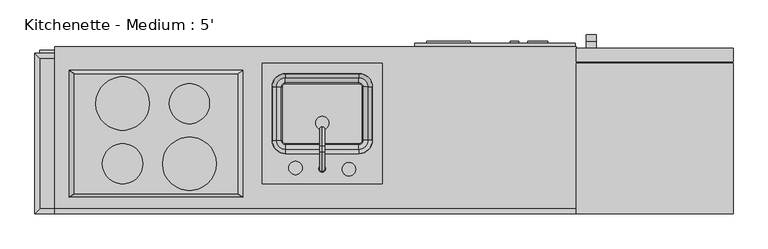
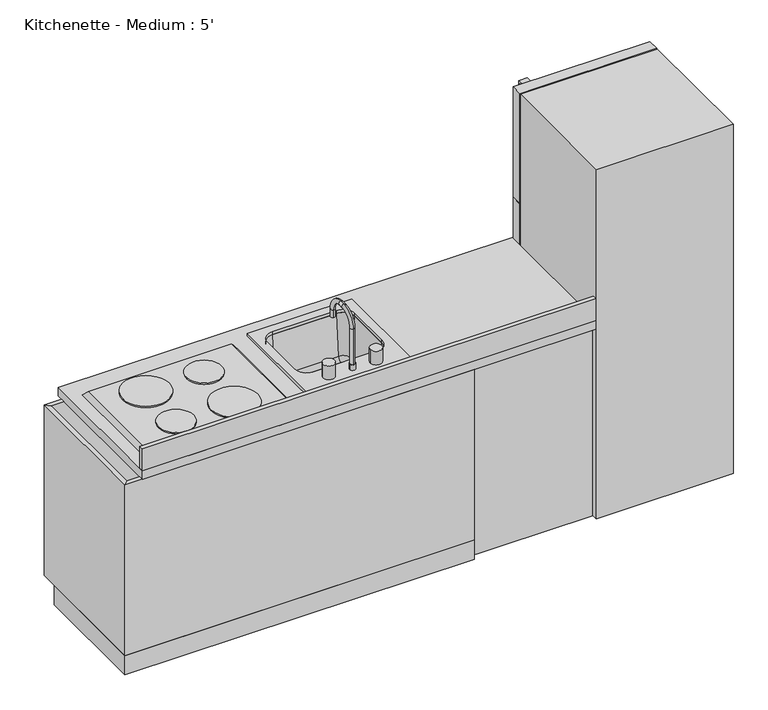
"""IFC4 building model written with IfcOpenShell, lengths in millimetres: proxy geometry, Kitchenette - Medium : 5'."""

from ifc_helpers import new_model, si_unit, point, frame, frame_2d, origin, origin_with_axes, place, context, project, spatial, polyline, circle_curve, ellipse_curve, trimmed, segment, composite_curve, outline, extrude, faceted_brep, source, transform, mapped, element, save
from ifc_brep_helpers import plane_surface, cylinder_surface, revolved_surface, advanced_brep


def kitchenette_medium_5_952fb32b(model_context):
    return source(origin(), model_context, "Body", "SolidModel", [
        extrude(outline(polyline([(911.8307496, 655.8359375), (911.8307496, 647.7), (746.7307496, 647.7), (746.7307496, 655.8359375), (911.8307496, 655.8359375)])), frame((0.0, 0.0, 780.0846419), z_axis=(0.0, 0.0, 1.0), x_axis=(1.0, 0.0, 0.0)), (0.0, 0.0, 1.0), 50.8),
        extrude(outline(composite_curve([segment(trimmed(circle_curve(frame_2d((780.0846419, 1168.9176561)), 38.1), [point((780.0846419, 1130.8176561))], [point((780.0846419, 1207.0176561))], False, "CARTESIAN"), True, "CONTINUOUS"), segment(trimmed(circle_curve(frame_2d((780.0846419, 1168.9176561)), 38.1), [point((780.0846419, 1207.0176561))], [point((780.0846419, 1130.8176561))], False, "CARTESIAN"), True, "CONTINUOUS")], self_intersect=False)), frame((0.0, 647.7, 0.0), z_axis=(0.0, 1.0, 0.0), x_axis=(0.0, 0.0, 1.0)), (0.0, 0.0, 1.0), 8.1359375),
        extrude(outline(composite_curve([segment(trimmed(circle_curve(frame_2d((780.0846419, 1079.3882607)), 15.875), [point((780.0846419, 1063.5132607))], [point((780.0846419, 1095.2632607))], False, "CARTESIAN"), True, "CONTINUOUS"), segment(trimmed(circle_curve(frame_2d((780.0846419, 1079.3882607)), 15.875), [point((780.0846419, 1095.2632607))], [point((780.0846419, 1063.5132607))], False, "CARTESIAN"), True, "CONTINUOUS")], self_intersect=False)), frame((0.0, 647.7, 0.0), z_axis=(0.0, 1.0, 0.0), x_axis=(0.0, 0.0, 1.0)), (0.0, 0.0, 1.0), 8.1359375),
        extrude(outline(polyline([(25.4, 0.0), (25.4, 863.6), (609.6, 863.6), (609.6, 101.6), (546.1, 101.6), (546.1, 0.0), (25.4, 0.0)])), frame((701.7104113, 0.0, 0.0), z_axis=(1.0, 0.0, 0.0), x_axis=(0.0, 1.0, 0.0)), (0.0, 0.0, 1.0), 609.6),
        extrude(outline(polyline([(1311.3104113, 635.0), (701.7104113, 635.0), (701.7104113, 647.7), (1311.3104113, 647.7), (1311.3104113, 635.0)])), frame((0.0, 0.0, 711.2), z_axis=(0.0, 0.0, 1.0), x_axis=(1.0, 0.0, 0.0)), (0.0, 0.0, 1.0), 152.4),
        extrude(outline(polyline([(1311.3104113, 635.0), (1311.3104113, 619.125), (701.7104113, 619.125), (701.7104113, 635.0), (1311.3104113, 635.0)])), frame((0.0, 0.0, 101.6), z_axis=(0.0, 0.0, 1.0), x_axis=(1.0, 0.0, 0.0)), (0.0, 0.0, 1.0), 762.0),
        extrude(outline(polyline([(1911.0377049, 0.0), (1314.1377049, 0.0), (1314.1377049, 571.5), (1911.0377049, 571.5), (1911.0377049, 0.0)])), origin_with_axes(), (0.0, 0.0, 1.0), 1612.9),
        extrude(outline(polyline([(1911.0377049, 577.85), (1314.1377049, 577.85), (1314.1377049, 628.65), (1911.0377049, 628.65), (1911.0377049, 577.85)])), frame((0.0, 0.0, 1106.4875), z_axis=(0.0, 0.0, 1.0), x_axis=(1.0, 0.0, 0.0)), (0.0, 0.0, 1.0), 506.4125),
        extrude(outline(polyline([(1911.0377049, 577.85), (1314.1377049, 577.85), (1314.1377049, 628.65), (1911.0377049, 628.65), (1911.0377049, 577.85)])), frame((0.0, 0.0, 76.2), z_axis=(0.0, 0.0, 1.0), x_axis=(1.0, 0.0, 0.0)), (0.0, 0.0, 1.0), 1027.1125),
        extrude(outline(polyline([(1911.0377049, 577.85), (1314.1377049, 577.85), (1314.1377049, 603.25), (1911.0377049, 603.25), (1911.0377049, 577.85)])), frame((0.0, 0.0, 9.3816357), z_axis=(0.0, 0.0, 1.0), x_axis=(1.0, 0.0, 0.0)), (0.0, 0.0, 1.0), 63.5),
        extrude(outline(polyline([(653.4883845, 1612.9), (680.028339, 1106.4875), (629.427057, 1106.4875), (629.427057, 1112.8375), (674.1496921, 1112.8375), (648.2753164, 1606.55), (629.427057, 1606.55), (629.427057, 1612.9), (653.4883845, 1612.9)])), frame((1352.2377049, 0.0, 0.0), z_axis=(1.0, 0.0, 0.0), x_axis=(0.0, 1.0, 0.0)), (0.0, 0.0, 1.0), 38.4332978),
        extrude(outline(polyline([(628.65, 1096.9625), (628.65, 1103.3125), (679.45, 1103.3125), (679.45, 900.1125), (651.5439227, 501.0370017), (628.65, 501.0370017), (628.65, 507.3715334), (645.6213702, 507.3715334), (673.1, 900.3342469), (673.1, 1096.9625), (628.65, 1096.9625)])), frame((1352.2377049, 0.0, 0.0), z_axis=(1.0, 0.0, 0.0), x_axis=(0.0, 1.0, 0.0)), (0.0, 0.0, 1.0), 38.4332978),
        extrude(outline(composite_curve([segment(trimmed(circle_curve(frame_2d((-409.8872951, 419.1)), 101.6), [point((-308.2872951, 419.1))], [point((-511.4872951, 419.1))], False, "CARTESIAN"), True, "CONTINUOUS"), segment(trimmed(circle_curve(frame_2d((-409.8872951, 419.1)), 101.6), [point((-511.4872951, 419.1))], [point((-308.2872951, 419.1))], False, "CARTESIAN"), True, "CONTINUOUS")], self_intersect=False)), frame((0.0, 0.0, 933.45), z_axis=(0.0, 0.0, 1.0), x_axis=(1.0, 0.0, 0.0)), (0.0, 0.0, 1.0), 6.35),
        faceted_brep([(28.2627049, 76.2, 933.45), (28.2627049, 533.4, 933.45), (-594.0372951, 533.4, 933.45), (-594.0372951, 76.2, 933.45), (47.3127049, 63.5, 914.4), (-613.0872951, 63.5, 914.4), (-613.0872951, 546.1, 914.4), (47.3127049, 546.1, 914.4)], [[[0, 1, 2, 3]], [[4, 5, 6, 7]], [[4, 0, 3, 5]], [[5, 3, 2, 6]], [[6, 2, 1, 7]], [[7, 1, 0, 4]]]),
        extrude(outline(composite_curve([segment(trimmed(circle_curve(frame_2d((-409.8872951, 190.5)), 76.5869489), [point((-333.3003462, 190.5))], [point((-486.474244, 190.5))], False, "CARTESIAN"), True, "CONTINUOUS"), segment(trimmed(circle_curve(frame_2d((-409.8872951, 190.5)), 76.5869489), [point((-486.474244, 190.5))], [point((-333.3003462, 190.5))], False, "CARTESIAN"), True, "CONTINUOUS")], self_intersect=False)), frame((0.0, 0.0, 933.45), z_axis=(0.0, 0.0, 1.0), x_axis=(1.0, 0.0, 0.0)), (0.0, 0.0, 1.0), 6.35),
        extrude(outline(composite_curve([segment(trimmed(circle_curve(frame_2d((-155.8872951, 190.5)), 101.6), [point((-54.2872951, 190.5))], [point((-257.4872951, 190.5))], False, "CARTESIAN"), True, "CONTINUOUS"), segment(trimmed(circle_curve(frame_2d((-155.8872951, 190.5)), 101.6), [point((-257.4872951, 190.5))], [point((-54.2872951, 190.5))], False, "CARTESIAN"), True, "CONTINUOUS")], self_intersect=False)), frame((0.0, 0.0, 933.45), z_axis=(0.0, 0.0, 1.0), x_axis=(1.0, 0.0, 0.0)), (0.0, 0.0, 1.0), 6.35),
        extrude(outline(composite_curve([segment(trimmed(circle_curve(frame_2d((-155.8872951, 419.1)), 76.2), [point((-79.6872951, 419.1))], [point((-232.0872951, 419.1))], False, "CARTESIAN"), True, "CONTINUOUS"), segment(trimmed(circle_curve(frame_2d((-155.8872951, 419.1)), 76.2), [point((-232.0872951, 419.1))], [point((-79.6872951, 419.1))], False, "CARTESIAN"), True, "CONTINUOUS")], self_intersect=False)), frame((0.0, 0.0, 933.45), z_axis=(0.0, 0.0, 1.0), x_axis=(1.0, 0.0, 0.0)), (0.0, 0.0, 1.0), 6.35),
        extrude(outline(polyline([(577.5377049, 114.3), (120.3377049, 114.3), (120.3377049, 571.5), (577.5377049, 571.5), (577.5377049, 114.3)]), holes=[composite_curve([segment(trimmed(circle_curve(frame_2d((488.6377049, 279.4)), 50.8), [point((488.6377049, 228.6))], [point((539.4377049, 279.4))], True, "CARTESIAN"), True, "CONTINUOUS"), segment(polyline([(539.4377049, 279.4), (539.4377049, 482.6)]), True, "CONTINUOUS"), segment(trimmed(circle_curve(frame_2d((488.6377049, 482.6)), 50.8), [point((539.4377049, 482.6))], [point((488.6377049, 533.4))], True, "CARTESIAN"), True, "CONTINUOUS"), segment(polyline([(488.6377049, 533.4), (209.2377049, 533.4)]), True, "CONTINUOUS"), segment(trimmed(circle_curve(frame_2d((209.2377049, 482.6)), 50.8), [point((209.2377049, 533.4))], [point((158.4377049, 482.6))], True, "CARTESIAN"), True, "CONTINUOUS"), segment(polyline([(158.4377049, 482.6), (158.4377049, 279.4)]), True, "CONTINUOUS"), segment(trimmed(circle_curve(frame_2d((209.2377049, 279.4)), 50.8), [point((158.4377049, 279.4))], [point((209.2377049, 228.6))], True, "CARTESIAN"), True, "CONTINUOUS"), segment(polyline([(209.2377049, 228.6), (488.6377049, 228.6)]), True, "CONTINUOUS")], self_intersect=False)]), frame((0.0, 0.0, 914.4), z_axis=(0.0, 0.0, 1.0), x_axis=(1.0, 0.0, 0.0)), (0.0, 0.0, 1.0), 12.7),
        advanced_brep(
        [(545.7877049, 279.4, 698.5), (545.7877049, 279.4, 914.4), (488.6377049, 222.25, 914.4), (488.6377049, 222.25, 698.5), (501.3377049, 279.4, 698.5), (488.6377049, 266.7, 698.5), (501.3377049, 279.4, 708.025), (488.6377049, 266.7, 708.025), (503.9261231, 279.4, 708.025), (488.6377049, 264.1115818, 708.025), (522.9036321, 279.4, 725.4146831), (488.6377049, 245.1340728, 725.4146831), (539.4377049, 279.4, 914.4), (488.6377049, 228.6, 914.4), (545.7877049, 482.6, 698.5), (545.7877049, 482.6, 914.4), (501.3377049, 482.6, 698.5), (501.3377049, 482.6, 708.025), (503.9261231, 482.6, 708.025), (522.9036321, 482.6, 725.4146831), (539.4377049, 482.6, 914.4), (488.6377049, 539.75, 698.5), (488.6377049, 539.75, 914.4), (488.6377049, 495.3, 698.5), (488.6377049, 495.3, 708.025), (488.6377049, 497.8884182, 708.025), (488.6377049, 516.8659272, 725.4146831), (488.6377049, 533.4, 914.4), (209.2377049, 539.75, 698.5), (209.2377049, 539.75, 914.4), (209.2377049, 495.3, 698.5), (209.2377049, 495.3, 708.025), (209.2377049, 497.8884182, 708.025), (209.2377049, 516.8659272, 725.4146831), (209.2377049, 533.4, 914.4), (152.0877049, 482.6, 698.5), (152.0877049, 482.6, 914.4), (196.5377049, 482.6, 698.5), (196.5377049, 482.6, 708.025), (193.9492867, 482.6, 708.025), (174.9717777, 482.6, 725.4146831), (158.4377049, 482.6, 914.4), (152.0877049, 279.4, 698.5), (152.0877049, 279.4, 914.4), (196.5377049, 279.4, 698.5), (196.5377049, 279.4, 708.025), (193.9492867, 279.4, 708.025), (174.9717777, 279.4, 725.4146831), (158.4377049, 279.4, 914.4), (209.2377049, 222.25, 698.5), (209.2377049, 222.25, 914.4), (209.2377049, 266.7, 698.5), (209.2377049, 266.7, 708.025), (209.2377049, 264.1115818, 708.025), (209.2377049, 245.1340728, 725.4146831), (209.2377049, 228.6, 914.4)],
        [
            (0, 1),
            (1, 2, circle_curve(frame((488.6377049, 279.4, 914.4), z_axis=(0.0, 0.0, -1.0), x_axis=(0.0, -1.0, 0.0)), 57.15)),
            (2, 3),
            (3, 0, circle_curve(frame((488.6377049, 279.4, 698.5), z_axis=(0.0, 0.0, 1.0), x_axis=(0.0, -1.0, 0.0)), 57.15)),
            (4, 0),
            (3, 5),
            (5, 4, circle_curve(frame((488.6377049, 279.4, 698.5), z_axis=(0.0, 0.0, 1.0), x_axis=(0.0, -1.0, 0.0)), 12.7)),
            (6, 4),
            (5, 7),
            (7, 6, circle_curve(frame((488.6377049, 279.4, 708.025), z_axis=(0.0, 0.0, 1.0), x_axis=(0.0, -1.0, 0.0)), 12.7)),
            (8, 6),
            (7, 9),
            (9, 8, circle_curve(frame((488.6377049, 279.4, 708.025), z_axis=(0.0, 0.0, 1.0), x_axis=(0.0, -1.0, 0.0)), 15.2884182)),
            (10, 8, circle_curve(frame((503.9261231, 279.4, 727.075), z_axis=(0.0, 1.0, 0.0), x_axis=(1.0, 0.0, 0.0)), 19.05)),
            (9, 11, circle_curve(frame((488.6377049, 264.1115818, 727.075), z_axis=(-1.0, 0.0, 0.0), x_axis=(0.0, -1.0, 0.0)), 19.05)),
            (11, 10, circle_curve(frame((488.6377049, 279.4, 725.4146831), z_axis=(0.0, 0.0, 1.0), x_axis=(0.0, -1.0, 0.0)), 34.2659272)),
            (12, 10),
            (11, 13),
            (13, 12, circle_curve(frame((488.6377049, 279.4, 914.4), z_axis=(0.0, 0.0, 1.0), x_axis=(0.0, -1.0, 0.0)), 50.8)),
            (1, 12),
            (13, 2),
            (0, 14),
            (14, 15),
            (15, 1),
            (4, 16),
            (16, 14),
            (6, 17),
            (17, 16),
            (8, 18),
            (18, 17),
            (10, 19),
            (19, 18, circle_curve(frame((503.9261231, 482.6, 727.075), z_axis=(0.0, 1.0, 0.0), x_axis=(1.0, 0.0, 0.0)), 19.05)),
            (12, 20),
            (20, 19),
            (15, 20),
            (21, 22),
            (22, 15, circle_curve(frame((488.6377049, 482.6, 914.4), z_axis=(0.0, 0.0, -1.0), x_axis=(1.0, 0.0, 0.0)), 57.15)),
            (14, 21, circle_curve(frame((488.6377049, 482.6, 698.5), z_axis=(0.0, 0.0, 1.0), x_axis=(1.0, 0.0, 0.0)), 57.15)),
            (23, 21),
            (16, 23, circle_curve(frame((488.6377049, 482.6, 698.5), z_axis=(0.0, 0.0, 1.0), x_axis=(1.0, 0.0, 0.0)), 12.7)),
            (24, 23),
            (17, 24, circle_curve(frame((488.6377049, 482.6, 708.025), z_axis=(0.0, 0.0, 1.0), x_axis=(1.0, 0.0, 0.0)), 12.7)),
            (25, 24),
            (18, 25, circle_curve(frame((488.6377049, 482.6, 708.025), z_axis=(0.0, 0.0, 1.0), x_axis=(1.0, 0.0, 0.0)), 15.2884182)),
            (26, 25, circle_curve(frame((488.6377049, 497.8884182, 727.075), z_axis=(-1.0, 0.0, 0.0), x_axis=(0.0, 1.0, 0.0)), 19.05)),
            (19, 26, circle_curve(frame((488.6377049, 482.6, 725.4146831), z_axis=(0.0, 0.0, 1.0), x_axis=(1.0, 0.0, 0.0)), 34.2659272)),
            (27, 26),
            (20, 27, circle_curve(frame((488.6377049, 482.6, 914.4), z_axis=(0.0, 0.0, 1.0), x_axis=(1.0, 0.0, 0.0)), 50.8)),
            (22, 27),
            (21, 28),
            (28, 29),
            (29, 22),
            (23, 30),
            (30, 28),
            (24, 31),
            (31, 30),
            (25, 32),
            (32, 31),
            (26, 33),
            (33, 32, circle_curve(frame((209.2377049, 497.8884182, 727.075), z_axis=(-1.0, 0.0, 0.0), x_axis=(0.0, 1.0, 0.0)), 19.05)),
            (27, 34),
            (34, 33),
            (29, 34),
            (35, 36),
            (36, 29, circle_curve(frame((209.2377049, 482.6, 914.4), z_axis=(0.0, 0.0, -1.0), x_axis=(0.0, 1.0, 0.0)), 57.15)),
            (28, 35, circle_curve(frame((209.2377049, 482.6, 698.5), z_axis=(0.0, 0.0, 1.0), x_axis=(0.0, 1.0, 0.0)), 57.15)),
            (37, 35),
            (30, 37, circle_curve(frame((209.2377049, 482.6, 698.5), z_axis=(0.0, 0.0, 1.0), x_axis=(0.0, 1.0, 0.0)), 12.7)),
            (38, 37),
            (31, 38, circle_curve(frame((209.2377049, 482.6, 708.025), z_axis=(0.0, 0.0, 1.0), x_axis=(0.0, 1.0, 0.0)), 12.7)),
            (39, 38),
            (32, 39, circle_curve(frame((209.2377049, 482.6, 708.025), z_axis=(0.0, 0.0, 1.0), x_axis=(0.0, 1.0, 0.0)), 15.2884182)),
            (40, 39, circle_curve(frame((193.9492867, 482.6, 727.075), z_axis=(0.0, -1.0, 0.0), x_axis=(-1.0, 0.0, 0.0)), 19.05)),
            (33, 40, circle_curve(frame((209.2377049, 482.6, 725.4146831), z_axis=(0.0, 0.0, 1.0), x_axis=(0.0, 1.0, 0.0)), 34.2659272)),
            (41, 40),
            (34, 41, circle_curve(frame((209.2377049, 482.6, 914.4), z_axis=(0.0, 0.0, 1.0), x_axis=(0.0, 1.0, 0.0)), 50.8)),
            (36, 41),
            (35, 42),
            (42, 43),
            (43, 36),
            (37, 44),
            (44, 42),
            (38, 45),
            (45, 44),
            (39, 46),
            (46, 45),
            (40, 47),
            (47, 46, circle_curve(frame((193.9492867, 279.4, 727.075), z_axis=(0.0, -1.0, 0.0), x_axis=(-1.0, 0.0, 0.0)), 19.05)),
            (41, 48),
            (48, 47),
            (43, 48),
            (49, 50),
            (50, 43, circle_curve(frame((209.2377049, 279.4, 914.4), z_axis=(0.0, 0.0, -1.0), x_axis=(-1.0, 0.0, 0.0)), 57.15)),
            (42, 49, circle_curve(frame((209.2377049, 279.4, 698.5), z_axis=(0.0, 0.0, 1.0), x_axis=(-1.0, 0.0, 0.0)), 57.15)),
            (51, 49),
            (44, 51, circle_curve(frame((209.2377049, 279.4, 698.5), z_axis=(0.0, 0.0, 1.0), x_axis=(-1.0, 0.0, 0.0)), 12.7)),
            (52, 51),
            (45, 52, circle_curve(frame((209.2377049, 279.4, 708.025), z_axis=(0.0, 0.0, 1.0), x_axis=(-1.0, 0.0, 0.0)), 12.7)),
            (53, 52),
            (46, 53, circle_curve(frame((209.2377049, 279.4, 708.025), z_axis=(0.0, 0.0, 1.0), x_axis=(-1.0, 0.0, 0.0)), 15.2884182)),
            (54, 53, circle_curve(frame((209.2377049, 264.1115818, 727.075), z_axis=(1.0, 0.0, 0.0), x_axis=(0.0, -1.0, 0.0)), 19.05)),
            (47, 54, circle_curve(frame((209.2377049, 279.4, 725.4146831), z_axis=(0.0, 0.0, 1.0), x_axis=(-1.0, 0.0, 0.0)), 34.2659272)),
            (55, 54),
            (48, 55, circle_curve(frame((209.2377049, 279.4, 914.4), z_axis=(0.0, 0.0, 1.0), x_axis=(-1.0, 0.0, 0.0)), 50.8)),
            (50, 55),
            (49, 3),
            (2, 50),
            (51, 5),
            (52, 7),
            (53, 9),
            (54, 11),
            (55, 13),
        ],
        [
            cylinder_surface(frame((488.6377049, 279.4, 0.0), z_axis=(0.0, 0.0, -1.0), x_axis=(0.0, -1.0, 0.0)), 57.15),
            plane_surface(frame((488.6377049, 279.4, 698.5), z_axis=(0.0, 0.0, -1.0), x_axis=(0.0, -1.0, 0.0))),
            revolved_surface(polyline([(488.6377049, 266.7, 698.5), (488.6377049, 266.7, 708.025)]), (488.6377049, 279.4, 0.0), (0.0, 0.0, -1.0)),
            plane_surface(frame((488.6377049, 279.4, 708.025), z_axis=(0.0, 0.0, 1.0), x_axis=(0.0, -1.0, 0.0))),
            revolved_surface(trimmed(ellipse_curve(frame((488.6377049, 264.1115818, 727.075), z_axis=(-1.0, 0.0, 0.0), x_axis=(0.0, -1.0, 0.0)), 19.05, 19.05), [point((488.6377049, 264.1115818, 708.025))], [point((488.6377049, 245.1340728, 725.4146831))], True, "CARTESIAN"), (488.6377049, 279.4, 0.0), (0.0, 0.0, -1.0)),
            revolved_surface(polyline([(488.6377049, 245.1340728, 725.4146831), (488.6377049, 228.6, 914.4)]), (488.6377049, 279.4, 0.0), (0.0, 0.0, -1.0)),
            plane_surface(frame((488.6377049, 279.4, 914.4), z_axis=(0.0, 0.0, 1.0), x_axis=(0.0, -1.0, 0.0))),
            plane_surface(frame((545.7877049, 279.4, 914.4), z_axis=(1.0, 0.0, 0.0), x_axis=(0.0, 1.0, 0.0))),
            plane_surface(frame((545.7877049, 279.4, 698.5), z_axis=(0.0, 0.0, -1.0), x_axis=(0.0, 1.0, 0.0))),
            plane_surface(frame((501.3377049, 279.4, 698.5), z_axis=(-1.0, 0.0, 0.0), x_axis=(0.0, 1.0, 0.0))),
            plane_surface(frame((501.3377049, 279.4, 708.025), z_axis=(0.0, 0.0, 1.0), x_axis=(0.0, 1.0, 0.0))),
            revolved_surface(polyline([(522.9761231, 482.6, 727.075), (522.9761231, 279.4, 727.075)]), (503.9261231, 279.4, 727.075), (0.0, 1.0, 0.0)),
            plane_surface(frame((522.9036321, 279.4, 725.4146831), z_axis=(-0.9961946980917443, 0.0, 0.08715574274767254), x_axis=(0.0, 1.0, 0.0))),
            plane_surface(frame((539.4377049, 279.4, 914.4), z_axis=(0.0, 0.0, 1.0), x_axis=(0.0, 1.0, 0.0))),
            cylinder_surface(frame((488.6377049, 482.6, 0.0), z_axis=(0.0, 0.0, -1.0), x_axis=(1.0, 0.0, 0.0)), 57.15),
            plane_surface(frame((488.6377049, 482.6, 698.5), z_axis=(0.0, 0.0, -1.0), x_axis=(1.0, 0.0, 0.0))),
            revolved_surface(polyline([(501.3377049, 482.6, 698.5), (501.3377049, 482.6, 708.025)]), (488.6377049, 482.6, 0.0), (0.0, 0.0, -1.0)),
            plane_surface(frame((488.6377049, 482.6, 708.025), z_axis=(0.0, 0.0, 1.0), x_axis=(1.0, 0.0, 0.0))),
            revolved_surface(trimmed(ellipse_curve(frame((503.9261231, 482.6, 727.075), z_axis=(0.0, -1.0, 0.0), x_axis=(1.0, 0.0, 0.0)), 19.05, 19.05), [point((503.9261231, 482.6, 708.025))], [point((522.9036321, 482.6, 725.4146831))], True, "CARTESIAN"), (488.6377049, 482.6, 0.0), (0.0, 0.0, -1.0)),
            revolved_surface(polyline([(522.9036321, 482.6, 725.4146831), (539.4377049, 482.6, 914.4)]), (488.6377049, 482.6, 0.0), (0.0, 0.0, -1.0)),
            plane_surface(frame((488.6377049, 482.6, 914.4), z_axis=(0.0, 0.0, 1.0), x_axis=(1.0, 0.0, 0.0))),
            plane_surface(frame((488.6377049, 539.75, 914.4), z_axis=(0.0, 1.0, 0.0), x_axis=(-1.0, 0.0, 0.0))),
            plane_surface(frame((488.6377049, 539.75, 698.5), z_axis=(0.0, 0.0, -1.0), x_axis=(-1.0, 0.0, 0.0))),
            plane_surface(frame((488.6377049, 495.3, 698.5), z_axis=(0.0, -1.0, 0.0), x_axis=(-1.0, 0.0, 0.0))),
            plane_surface(frame((488.6377049, 495.3, 708.025), z_axis=(0.0, 0.0, 1.0), x_axis=(-1.0, 0.0, 0.0))),
            revolved_surface(polyline([(209.23770490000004, 516.9384182, 727.075), (488.6377049, 516.9384182, 727.075)]), (488.6377049, 497.8884182, 727.075), (-1.0, 0.0, 0.0)),
            plane_surface(frame((488.6377049, 516.8659272, 725.4146831), z_axis=(0.0, -0.9961946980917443, 0.08715574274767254), x_axis=(-1.0, 0.0, 0.0))),
            plane_surface(frame((488.6377049, 533.4, 914.4), z_axis=(0.0, 0.0, 1.0), x_axis=(-1.0, 0.0, 0.0))),
            cylinder_surface(frame((209.2377049, 482.6, 0.0), z_axis=(0.0, 0.0, -1.0), x_axis=(0.0, 1.0, 0.0)), 57.15),
            plane_surface(frame((209.2377049, 482.6, 698.5), z_axis=(0.0, 0.0, -1.0), x_axis=(0.0, 1.0, 0.0))),
            revolved_surface(polyline([(209.2377049, 495.3, 698.5), (209.2377049, 495.3, 708.025)]), (209.2377049, 482.6, 0.0), (0.0, 0.0, -1.0)),
            plane_surface(frame((209.2377049, 482.6, 708.025), z_axis=(0.0, 0.0, 1.0), x_axis=(0.0, 1.0, 0.0))),
            revolved_surface(trimmed(ellipse_curve(frame((209.2377049, 497.8884182, 727.075), z_axis=(1.0, 0.0, 0.0), x_axis=(0.0, 1.0, 0.0)), 19.05, 19.05), [point((209.2377049, 497.8884182, 708.025))], [point((209.2377049, 516.8659272, 725.4146831))], True, "CARTESIAN"), (209.2377049, 482.6, 0.0), (0.0, 0.0, -1.0)),
            revolved_surface(polyline([(209.2377049, 516.8659272, 725.4146831), (209.2377049, 533.4, 914.4)]), (209.2377049, 482.6, 0.0), (0.0, 0.0, -1.0)),
            plane_surface(frame((209.2377049, 482.6, 914.4), z_axis=(0.0, 0.0, 1.0), x_axis=(0.0, 1.0, 0.0))),
            plane_surface(frame((152.0877049, 482.6, 914.4), z_axis=(-1.0, 0.0, 0.0), x_axis=(0.0, -1.0, 0.0))),
            plane_surface(frame((152.0877049, 482.6, 698.5), z_axis=(0.0, 0.0, -1.0), x_axis=(0.0, -1.0, 0.0))),
            plane_surface(frame((196.5377049, 482.6, 698.5), z_axis=(1.0, 0.0, 0.0), x_axis=(0.0, -1.0, 0.0))),
            plane_surface(frame((196.5377049, 482.6, 708.025), z_axis=(0.0, 0.0, 1.0), x_axis=(0.0, -1.0, 0.0))),
            revolved_surface(polyline([(174.89928669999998, 279.4, 727.075), (174.89928669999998, 482.6, 727.075)]), (193.9492867, 482.6, 727.075), (0.0, -1.0, 0.0)),
            plane_surface(frame((174.9717777, 482.6, 725.4146831), z_axis=(0.9961946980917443, 0.0, 0.08715574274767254), x_axis=(0.0, -1.0, 0.0))),
            plane_surface(frame((158.4377049, 482.6, 914.4), z_axis=(0.0, 0.0, 1.0), x_axis=(0.0, -1.0, 0.0))),
            cylinder_surface(frame((209.2377049, 279.4, 0.0), z_axis=(0.0, 0.0, -1.0), x_axis=(-1.0, 0.0, 0.0)), 57.15),
            plane_surface(frame((209.2377049, 279.4, 698.5), z_axis=(0.0, 0.0, -1.0), x_axis=(-1.0, 0.0, 0.0))),
            revolved_surface(polyline([(196.53770490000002, 279.4, 698.5), (196.53770490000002, 279.4, 708.025)]), (209.2377049, 279.4, 0.0), (0.0, 0.0, -1.0)),
            plane_surface(frame((209.2377049, 279.4, 708.025), z_axis=(0.0, 0.0, 1.0), x_axis=(-1.0, 0.0, 0.0))),
            revolved_surface(trimmed(ellipse_curve(frame((193.9492867, 279.4, 727.075), z_axis=(0.0, 1.0, 0.0), x_axis=(-1.0, 0.0, 0.0)), 19.05, 19.05), [point((193.9492867, 279.4, 708.025))], [point((174.9717777, 279.4, 725.4146831))], True, "CARTESIAN"), (209.2377049, 279.4, 0.0), (0.0, 0.0, -1.0)),
            revolved_surface(polyline([(174.9717777, 279.4, 725.4146831), (158.4377049, 279.4, 914.4)]), (209.2377049, 279.4, 0.0), (0.0, 0.0, -1.0)),
            plane_surface(frame((209.2377049, 279.4, 914.4), z_axis=(0.0, 0.0, 1.0), x_axis=(-1.0, 0.0, 0.0))),
            plane_surface(frame((209.2377049, 222.25, 914.4), z_axis=(0.0, -1.0, 0.0), x_axis=(1.0, 0.0, 0.0))),
            plane_surface(frame((209.2377049, 222.25, 698.5), z_axis=(0.0, 0.0, -1.0), x_axis=(1.0, 0.0, 0.0))),
            plane_surface(frame((209.2377049, 266.7, 698.5), z_axis=(0.0, 1.0, 0.0), x_axis=(1.0, 0.0, 0.0))),
            plane_surface(frame((209.2377049, 266.7, 708.025), z_axis=(0.0, 0.0, 1.0), x_axis=(1.0, 0.0, 0.0))),
            revolved_surface(polyline([(488.6377049, 245.0615818, 727.075), (209.2377049, 245.0615818, 727.075)]), (209.2377049, 264.1115818, 727.075), (1.0, 0.0, 0.0)),
            plane_surface(frame((209.2377049, 245.1340728, 725.4146831), z_axis=(0.0, 0.9961946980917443, 0.08715574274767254), x_axis=(1.0, 0.0, 0.0))),
            plane_surface(frame((209.2377049, 228.6, 914.4), z_axis=(0.0, 0.0, 1.0), x_axis=(1.0, 0.0, 0.0))),
        ],
        [
            (0, [[1, 2, 3, 4]]),
            (1, [[5, -4, 6, 7]]),
            (2, [[8, -7, 9, 10]]),
            (3, [[11, -10, 12, 13]]),
            (4, [[14, -13, 15, 16]]),
            (5, [[17, -16, 18, 19]]),
            (6, [[20, -19, 21, -2]]),
            (7, [[22, 23, 24, -1]]),
            (8, [[25, 26, -22, -5]]),
            (9, [[27, 28, -25, -8]]),
            (10, [[29, 30, -27, -11]]),
            (11, [[31, 32, -29, -14]]),
            (12, [[33, 34, -31, -17]]),
            (13, [[-24, 35, -33, -20]]),
            (14, [[36, 37, -23, 38]]),
            (15, [[39, -38, -26, 40]]),
            (16, [[41, -40, -28, 42]]),
            (17, [[43, -42, -30, 44]]),
            (18, [[45, -44, -32, 46]]),
            (19, [[47, -46, -34, 48]]),
            (20, [[49, -48, -35, -37]]),
            (21, [[50, 51, 52, -36]]),
            (22, [[53, 54, -50, -39]]),
            (23, [[55, 56, -53, -41]]),
            (24, [[57, 58, -55, -43]]),
            (25, [[59, 60, -57, -45]]),
            (26, [[61, 62, -59, -47]]),
            (27, [[-52, 63, -61, -49]]),
            (28, [[64, 65, -51, 66]]),
            (29, [[67, -66, -54, 68]]),
            (30, [[69, -68, -56, 70]]),
            (31, [[71, -70, -58, 72]]),
            (32, [[73, -72, -60, 74]]),
            (33, [[75, -74, -62, 76]]),
            (34, [[77, -76, -63, -65]]),
            (35, [[78, 79, 80, -64]]),
            (36, [[81, 82, -78, -67]]),
            (37, [[83, 84, -81, -69]]),
            (38, [[85, 86, -83, -71]]),
            (39, [[87, 88, -85, -73]]),
            (40, [[89, 90, -87, -75]]),
            (41, [[-80, 91, -89, -77]]),
            (42, [[92, 93, -79, 94]]),
            (43, [[95, -94, -82, 96]]),
            (44, [[97, -96, -84, 98]]),
            (45, [[99, -98, -86, 100]]),
            (46, [[101, -100, -88, 102]]),
            (47, [[103, -102, -90, 104]]),
            (48, [[105, -104, -91, -93]]),
            (49, [[106, -3, 107, -92]]),
            (50, [[108, -6, -106, -95]]),
            (51, [[109, -9, -108, -97]]),
            (52, [[110, -12, -109, -99]]),
            (53, [[111, -15, -110, -101]]),
            (54, [[112, -18, -111, -103]]),
            (55, [[-107, -21, -112, -105]]),
        ],
    ),
        extrude(outline(composite_curve([segment(polyline([(488.6377049, 266.7), (209.2377049, 266.7)]), True, "CONTINUOUS"), segment(trimmed(circle_curve(frame_2d((209.2377049, 279.4)), 12.7), [point((209.2377049, 266.7))], [point((196.5377049, 279.4))], False, "CARTESIAN"), True, "CONTINUOUS"), segment(polyline([(196.5377049, 279.4), (196.5377049, 482.6)]), True, "CONTINUOUS"), segment(trimmed(circle_curve(frame_2d((209.2377049, 482.6)), 12.7), [point((196.5377049, 482.6))], [point((209.2377049, 495.3))], False, "CARTESIAN"), True, "CONTINUOUS"), segment(polyline([(209.2377049, 495.3), (488.6377049, 495.3)]), True, "CONTINUOUS"), segment(trimmed(circle_curve(frame_2d((488.6377049, 482.6)), 12.7), [point((488.6377049, 495.3))], [point((501.3377049, 482.6))], False, "CARTESIAN"), True, "CONTINUOUS"), segment(polyline([(501.3377049, 482.6), (501.3377049, 279.4)]), True, "CONTINUOUS"), segment(trimmed(circle_curve(frame_2d((488.6377049, 279.4)), 12.7), [point((501.3377049, 279.4))], [point((488.6377049, 266.7))], False, "CARTESIAN"), True, "CONTINUOUS")], self_intersect=False), holes=[composite_curve([segment(trimmed(circle_curve(frame_2d((348.9377049, 345.2454011)), 25.4), [point((323.5377049, 345.2454011))], [point((374.3377049, 345.2454011))], True, "CARTESIAN"), True, "CONTINUOUS"), segment(trimmed(circle_curve(frame_2d((348.9377049, 345.2454011)), 25.4), [point((374.3377049, 345.2454011))], [point((323.5377049, 345.2454011))], True, "CARTESIAN"), True, "CONTINUOUS")], self_intersect=False)]), frame((0.0, 0.0, 698.5), z_axis=(0.0, 0.0, 1.0), x_axis=(1.0, 0.0, 0.0)), (0.0, 0.0, 1.0), 9.525),
        extrude(outline(composite_curve([segment(trimmed(circle_curve(frame_2d((247.3377049, 174.5287936)), 25.4), [point((221.9377049, 174.5287936))], [point((272.7377049, 174.5287936))], False, "CARTESIAN"), True, "CONTINUOUS"), segment(trimmed(circle_curve(frame_2d((247.3377049, 174.5287936)), 25.4), [point((272.7377049, 174.5287936))], [point((221.9377049, 174.5287936))], False, "CARTESIAN"), True, "CONTINUOUS")], self_intersect=False)), frame((0.0, 0.0, 927.1), z_axis=(0.0, 0.0, 1.0), x_axis=(1.0, 0.0, 0.0)), (0.0, 0.0, 1.0), 63.5),
        extrude(outline(composite_curve([segment(trimmed(circle_curve(frame_2d((450.5377049, 169.3320688)), 25.4), [point((425.1377049, 169.3320688))], [point((475.9377049, 169.3320688))], False, "CARTESIAN"), True, "CONTINUOUS"), segment(trimmed(circle_curve(frame_2d((450.5377049, 169.3320688)), 25.4), [point((475.9377049, 169.3320688))], [point((425.1377049, 169.3320688))], False, "CARTESIAN"), True, "CONTINUOUS")], self_intersect=False)), frame((0.0, 0.0, 927.1), z_axis=(0.0, 0.0, 1.0), x_axis=(1.0, 0.0, 0.0)), (0.0, 0.0, 1.0), 63.5),
        advanced_brep(
        [(348.9377049, 161.925, 927.1), (348.9377049, 180.975, 927.1), (348.9377049, 180.975, 1114.425), (348.9377049, 161.925, 1114.425), (348.9377049, 234.95, 1168.4), (348.9377049, 234.95, 1187.45), (348.9377049, 257.175, 1168.4), (348.9377049, 257.175, 1187.45), (348.9377049, 311.15, 1114.425), (348.9377049, 330.2, 1114.425), (348.9377049, 330.2, 1079.5), (348.9377049, 311.15, 1079.5)],
        [
            (0, 1, circle_curve(frame((348.9377049, 171.45, 927.1), z_axis=(0.0, 0.0, -1.0), x_axis=(0.0, 1.0, 0.0)), 9.525)),
            (1, 0, circle_curve(frame((348.9377049, 171.45, 927.1), z_axis=(0.0, 0.0, -1.0), x_axis=(0.0, 1.0, 0.0)), 9.525)),
            (1, 2),
            (2, 3, circle_curve(frame((348.9377049, 171.45, 1114.425), z_axis=(0.0, 0.0, -1.0), x_axis=(0.0, 1.0, 0.0)), 9.525)),
            (3, 0),
            (3, 2, circle_curve(frame((348.9377049, 171.45, 1114.425), z_axis=(0.0, 0.0, -1.0), x_axis=(0.0, 1.0, 0.0)), 9.525)),
            (4, 5, circle_curve(frame((348.9377049, 234.95, 1177.925), z_axis=(0.0, -1.0, 0.0), x_axis=(0.0, 0.0, -1.0)), 9.525)),
            (5, 3, circle_curve(frame((348.9377049, 234.95, 1114.425), z_axis=(1.0, 0.0, 0.0), x_axis=(0.0, -1.0, 0.0)), 73.025)),
            (2, 4, circle_curve(frame((348.9377049, 234.95, 1114.425), z_axis=(-1.0, 0.0, 0.0), x_axis=(0.0, -1.0, 0.0)), 53.975)),
            (5, 4, circle_curve(frame((348.9377049, 234.95, 1177.925), z_axis=(0.0, -1.0, 0.0), x_axis=(0.0, 0.0, -1.0)), 9.525)),
            (4, 6),
            (6, 7, circle_curve(frame((348.9377049, 257.175, 1177.925), z_axis=(0.0, -1.0, 0.0), x_axis=(0.0, 0.0, -1.0)), 9.525)),
            (7, 5),
            (7, 6, circle_curve(frame((348.9377049, 257.175, 1177.925), z_axis=(0.0, -1.0, 0.0), x_axis=(0.0, 0.0, -1.0)), 9.525)),
            (8, 9, circle_curve(frame((348.9377049, 320.675, 1114.425), z_axis=(0.0, 0.0, 1.0), x_axis=(0.0, -1.0, 0.0)), 9.525)),
            (9, 7, circle_curve(frame((348.9377049, 257.175, 1114.425), z_axis=(1.0, 0.0, 0.0), x_axis=(0.0, 0.0, 1.0)), 73.025)),
            (6, 8, circle_curve(frame((348.9377049, 257.175, 1114.425), z_axis=(-1.0, 0.0, 0.0), x_axis=(0.0, 0.0, 1.0)), 53.975)),
            (9, 8, circle_curve(frame((348.9377049, 320.675, 1114.425), z_axis=(0.0, 0.0, 1.0), x_axis=(0.0, -1.0, 0.0)), 9.525)),
            (10, 11, circle_curve(frame((348.9377049, 320.675, 1079.5), z_axis=(0.0, 0.0, -1.0), x_axis=(0.0, -1.0, 0.0)), 9.525)),
            (11, 10, circle_curve(frame((348.9377049, 320.675, 1079.5), z_axis=(0.0, 0.0, -1.0), x_axis=(0.0, -1.0, 0.0)), 9.525)),
            (8, 11),
            (10, 9),
        ],
        [
            plane_surface(frame((348.9377049, 180.975, 927.1), z_axis=(0.0, 0.0, -1.0), x_axis=(1.0, 0.0, 0.0))),
            cylinder_surface(frame((348.9377049, 171.45, 927.1), z_axis=(0.0, 0.0, -1.0), x_axis=(0.0, 1.0, 0.0)), 9.525),
            revolved_surface(trimmed(ellipse_curve(frame((348.9377049, 171.45, 1114.425), z_axis=(0.0, 0.0, 1.0), x_axis=(0.0, 1.0, 0.0)), 9.525, 9.525), [point((348.9377049, 161.925, 1114.425))], [point((348.9377049, 180.975, 1114.425))], True, "CARTESIAN"), (348.9377049, 234.95, 1114.425), (1.0, 0.0, 0.0)),
            revolved_surface(trimmed(ellipse_curve(frame((348.9377049, 171.45, 1114.425), z_axis=(0.0, 0.0, 1.0), x_axis=(0.0, 1.0, 0.0)), 9.525, 9.525), [point((348.9377049, 180.975, 1114.425))], [point((348.9377049, 161.925, 1114.425))], True, "CARTESIAN"), (348.9377049, 234.95, 1114.425), (1.0, 0.0, 0.0)),
            cylinder_surface(frame((348.9377049, 234.95, 1177.925), z_axis=(0.0, -1.0, 0.0), x_axis=(0.0, 0.0, -1.0)), 9.525),
            revolved_surface(trimmed(ellipse_curve(frame((348.9377049, 257.175, 1177.925), z_axis=(0.0, 1.0, 0.0), x_axis=(0.0, 0.0, -1.0)), 9.525, 9.525), [point((348.9377049, 257.175, 1187.45))], [point((348.9377049, 257.175, 1168.4))], True, "CARTESIAN"), (348.9377049, 257.175, 1114.425), (1.0, 0.0, 0.0)),
            revolved_surface(trimmed(ellipse_curve(frame((348.9377049, 257.175, 1177.925), z_axis=(0.0, 1.0, 0.0), x_axis=(0.0, 0.0, -1.0)), 9.525, 9.525), [point((348.9377049, 257.175, 1168.4))], [point((348.9377049, 257.175, 1187.45))], True, "CARTESIAN"), (348.9377049, 257.175, 1114.425), (1.0, 0.0, 0.0)),
            plane_surface(frame((348.9377049, 330.2, 1079.5), z_axis=(0.0, 0.0, -1.0), x_axis=(-1.0, 0.0, 0.0))),
            cylinder_surface(frame((348.9377049, 320.675, 1114.425), z_axis=(0.0, 0.0, 1.0), x_axis=(0.0, -1.0, 0.0)), 9.525),
        ],
        [
            (0, [[1, 2]]),
            (1, [[3, 4, 5, -2]]),
            (1, [[-5, 6, -3, -1]]),
            (2, [[7, 8, -4, 9]]),
            (3, [[10, -9, -6, -8]]),
            (4, [[11, 12, 13, -7]]),
            (4, [[-13, 14, -11, -10]]),
            (5, [[15, 16, -12, 17]]),
            (6, [[18, -17, -14, -16]]),
            (7, [[19, 20]]),
            (8, [[21, -19, 22, -15]]),
            (8, [[-22, -20, -21, -18]]),
        ],
    ),
        extrude(outline(composite_curve([segment(trimmed(circle_curve(frame_2d((348.9377049, 171.45)), 12.7), [point((336.2377049, 171.45))], [point((361.6377049, 171.45))], False, "CARTESIAN"), True, "CONTINUOUS"), segment(trimmed(circle_curve(frame_2d((348.9377049, 171.45)), 12.7), [point((361.6377049, 171.45))], [point((336.2377049, 171.45))], False, "CARTESIAN"), True, "CONTINUOUS")], self_intersect=False)), frame((0.0, 0.0, 927.1), z_axis=(0.0, 0.0, 1.0), x_axis=(1.0, 0.0, 0.0)), (0.0, 0.0, 1.0), 25.4),
        extrude(outline(polyline([(1314.1377049, 0.0), (-667.0622951, 0.0), (-667.0622951, 635.0), (1314.1377049, 635.0), (1314.1377049, 0.0)]), holes=[composite_curve([segment(trimmed(circle_curve(frame_2d((514.0377049, 190.5)), 50.8), [point((514.0377049, 139.7))], [point((564.8377049, 190.5))], True, "CARTESIAN"), True, "CONTINUOUS"), segment(polyline([(564.8377049, 190.5), (564.8377049, 495.3)]), True, "CONTINUOUS"), segment(trimmed(circle_curve(frame_2d((514.0377049, 495.3)), 50.8), [point((564.8377049, 495.3))], [point((514.0377049, 546.1))], True, "CARTESIAN"), True, "CONTINUOUS"), segment(polyline([(514.0377049, 546.1), (183.8377049, 546.1)]), True, "CONTINUOUS"), segment(trimmed(circle_curve(frame_2d((183.8377049, 495.3)), 50.8), [point((183.8377049, 546.1))], [point((133.0377049, 495.3))], True, "CARTESIAN"), True, "CONTINUOUS"), segment(polyline([(133.0377049, 495.3), (133.0377049, 190.5)]), True, "CONTINUOUS"), segment(trimmed(circle_curve(frame_2d((183.8377049, 190.5)), 50.8), [point((133.0377049, 190.5))], [point((183.8377049, 139.7))], True, "CARTESIAN"), True, "CONTINUOUS"), segment(polyline([(183.8377049, 139.7), (514.0377049, 139.7)]), True, "CONTINUOUS")], self_intersect=False)]), frame((0.0, 0.0, 876.3), z_axis=(0.0, 0.0, 1.0), x_axis=(1.0, 0.0, 0.0)), (0.0, 0.0, 1.0), 38.1),
        extrude(outline(polyline([(-667.0622951, 0.0), (-667.0622951, 19.05), (1314.1377049, 19.05), (1314.1377049, 0.0), (-667.0622951, 0.0)])), frame((0.0, 0.0, 914.4), z_axis=(0.0, 0.0, 1.0), x_axis=(1.0, 0.0, 0.0)), (0.0, 0.0, 1.0), 101.6),
        extrude(outline(polyline([(-16.1872951, 635.0), (-16.1872951, 622.3), (-28.8872951, 622.3), (-28.8872951, 635.0), (-16.1872951, 635.0)])), frame((0.0, 0.0, 573.769895), z_axis=(0.0, 0.0, 1.0), x_axis=(1.0, 0.0, 0.0)), (0.0, 0.0, 1.0), 124.730105),
        extrude(outline(polyline([(66.3627049, 635.0), (66.3627049, 622.3), (53.6627049, 622.3), (53.6627049, 635.0), (66.3627049, 635.0)])), frame((0.0, 0.0, 573.769895), z_axis=(0.0, 0.0, 1.0), x_axis=(1.0, 0.0, 0.0)), (0.0, 0.0, 1.0), 124.730105),
        extrude(outline(polyline([(761.6877049, 19.05), (-724.2122951, 19.05), (-724.2122951, 590.55), (761.6877049, 590.55), (761.6877049, 19.05)])), frame((0.0, 0.0, 88.9), z_axis=(0.0, 0.0, 1.0), x_axis=(1.0, 0.0, 0.0)), (0.0, 0.0, 1.0), 19.05),
        faceted_brep([(761.6877049, 590.55, 876.3), (-724.2122951, 590.55, 876.3), (-724.2122951, 590.55, 88.9), (761.6877049, 590.55, 88.9), (780.7377049, 609.6, 876.3), (-743.2622951, 609.6, 876.3), (780.7377049, 609.6, 88.9), (-743.2622951, 609.6, 88.9), (-724.2122951, 19.05, 876.3), (-724.2122951, 19.05, 88.9), (-743.2622951, 0.0, 876.3), (-743.2622951, 0.0, 88.9), (761.6877049, 19.05, 876.3), (761.6877049, 19.05, 88.9), (780.7377049, 0.0, 876.3), (780.7377049, 0.0, 88.9)], [[[0, 1, 2, 3]], [[4, 5, 1, 0]], [[6, 7, 5, 4]], [[3, 2, 7, 6]], [[1, 8, 9, 2]], [[5, 10, 8, 1]], [[7, 11, 10, 5]], [[2, 9, 11, 7]], [[8, 12, 13, 9]], [[10, 14, 12, 8]], [[11, 15, 14, 10]], [[9, 13, 15, 11]], [[12, 0, 3, 13]], [[14, 4, 0, 12]], [[15, 6, 4, 14]], [[13, 3, 6, 15]]]),
        extrude(outline(polyline([(780.7377049, 0.0), (-743.2622951, 0.0), (-743.2622951, 533.4), (780.7377049, 533.4), (780.7377049, 0.0)])), origin_with_axes(), (0.0, 0.0, 1.0), 88.9),
        extrude(outline(polyline([(9.2127049, 622.3), (9.2127049, 609.6), (-724.2122951, 609.6), (-724.2122951, 622.3), (9.2127049, 622.3)])), frame((0.0, 0.0, 107.95), z_axis=(0.0, 0.0, 1.0), x_axis=(1.0, 0.0, 0.0)), (0.0, 0.0, 1.0), 628.65),
        extrude(outline(polyline([(761.6877049, 622.3), (761.6877049, 609.6), (28.2627049, 609.6), (28.2627049, 622.3), (761.6877049, 622.3)])), frame((0.0, 0.0, 107.95), z_axis=(0.0, 0.0, 1.0), x_axis=(1.0, 0.0, 0.0)), (0.0, 0.0, 1.0), 628.65),
        extrude(outline(polyline([(761.6877049, 622.3), (761.6877049, 609.6), (-724.2122951, 609.6), (-724.2122951, 622.3), (761.6877049, 622.3)])), frame((0.0, 0.0, 755.65), z_axis=(0.0, 0.0, 1.0), x_axis=(1.0, 0.0, 0.0)), (0.0, 0.0, 1.0), 101.6),
    ])


if __name__ == "__main__":
    model = new_model("IFC4")
    model_context = context("Model", 3, world=origin())
    ifc_project = project(units=[si_unit("LENGTHUNIT", "METRE", prefix="MILLI")], contexts=[model_context])
    site = spatial("IfcSite", under=ifc_project)
    building = spatial("IfcBuilding", under=site)
    placement = place(None, origin())
    kitchenette_medium_5_shape = kitchenette_medium_5_952fb32b(model_context)
    element("IfcBuildingElementProxy", 1, Name="Kitchenette - Medium : 5'", ObjectType="Kitchenette - Medium : 5'", at=placement, inside=building, context=model_context, shape_type="MappedRepresentation", body=[
        mapped(kitchenette_medium_5_shape, transform((0.0, 0.0, 0.0), x_axis=(1.0, 0.0, 0.0), y_axis=(0.0, 1.0, 0.0), z_axis=(0.0, 0.0, 1.0))),
    ])
    save(model, "model.ifc")
